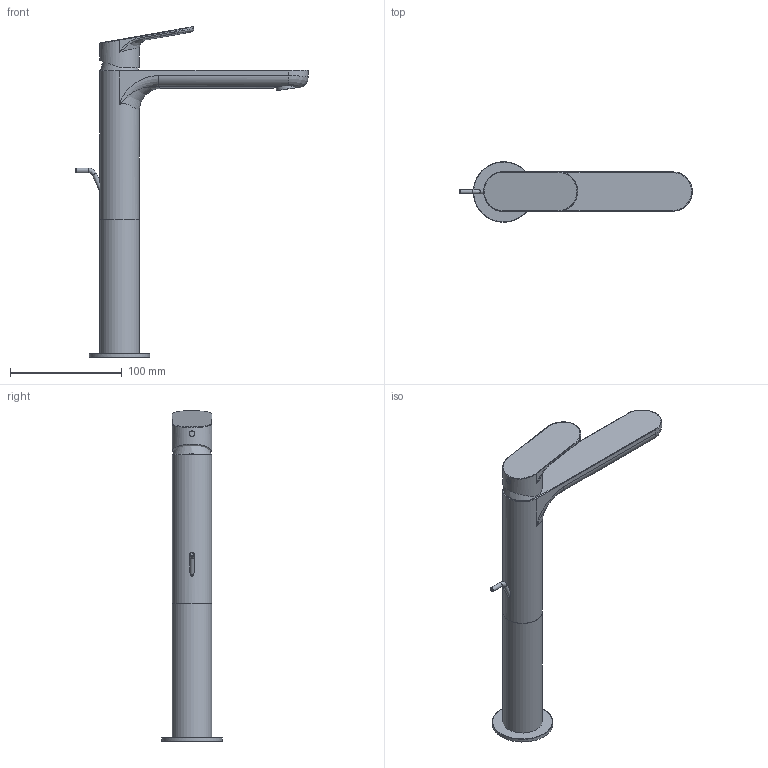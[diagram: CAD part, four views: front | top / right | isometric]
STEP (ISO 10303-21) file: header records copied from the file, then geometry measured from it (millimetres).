
FILE_DESCRIPTION(('STEP AP203'),'2;1');
FILE_NAME('ZKK701.stp','2019-05-20T08:26:00',(''),(''),'2015.2.119','THINKDESIGN','');
FILE_SCHEMA(('CONFIG_CONTROL_DESIGN'));
Length unit declared in the file: millimetre
Bounding box: 207.73 x 53.98 x 295.59 mm (x, y, z)
Volume: 370411.1 mm3; surface area: 63751.3 mm2
Topology: 7 solids, 7 shells, 86 faces, 212 edges, 148 vertices
Faces by surface type: bspline 35, plane 27, cylinder 24
Full cylindrical faces by diameter (mm): 4 x2, 17 x1, 18.5 x1, 23 x1, 24 x1, 35.2 x2, 35.5 x1
Entity records: 8365 total; most frequent: CARTESIAN_POINT 6581, ORIENTED_EDGE 364, DIRECTION 222, EDGE_CURVE 182, VERTEX_POINT 121, B_SPLINE_CURVE_WITH_KNOTS 91, AXIS2_PLACEMENT_3D 89, EDGE_LOOP 87
